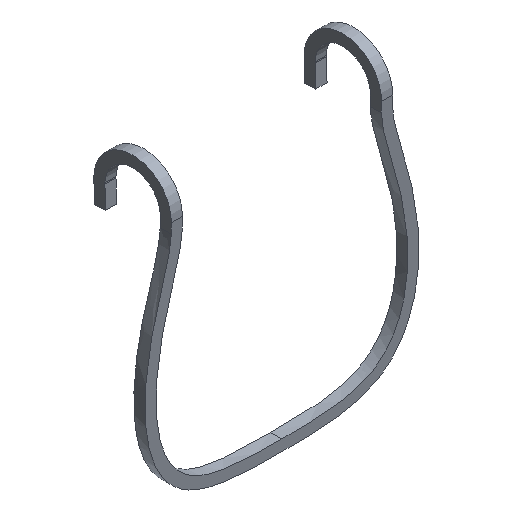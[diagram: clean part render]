
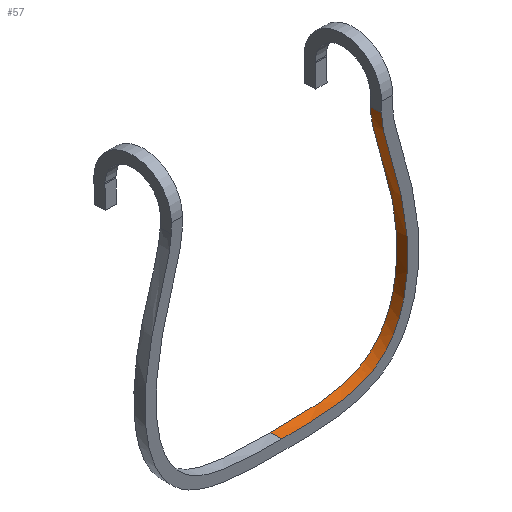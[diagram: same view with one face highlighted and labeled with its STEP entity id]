
A CAD part, isometric view. The second image highlights one B-rep face of the part: STEP entity #57.
In plain terms, the highlighted face is a extrusion surface.
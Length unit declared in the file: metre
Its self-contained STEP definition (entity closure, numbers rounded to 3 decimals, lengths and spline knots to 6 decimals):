
#57=ADVANCED_FACE('0:23',(#127),#128,.F.);
#127=FACE_OUTER_BOUND('',#207,.T.);
#128=SURFACE_OF_LINEAR_EXTRUSION('',#208,#209);
#207=EDGE_LOOP('',(#813,#814,#815,#816));
#208=B_SPLINE_CURVE_WITH_KNOTS('',3,(#817,#818,#819,#820,#821,#822),.UNSPECIFIED.,.F.,.F.,(4,1,1,4),(-0.4,0.264101,0.718762,1.1),.UNSPECIFIED.);
#209=VECTOR('',#823,1.0);
#813=ORIENTED_EDGE('',*,*,#1032,.F.);
#814=ORIENTED_EDGE('',*,*,#1033,.F.);
#815=ORIENTED_EDGE('',*,*,#1034,.T.);
#816=ORIENTED_EDGE('',*,*,#1035,.F.);
#817=CARTESIAN_POINT('',(0.132332,-0.022181,0.074671));
#818=CARTESIAN_POINT('',(0.030691,-0.022181,0.072554));
#819=CARTESIAN_POINT('',(0.076725,-0.022181,0.018317));
#820=CARTESIAN_POINT('',(0.073963,-0.022181,-0.102675));
#821=CARTESIAN_POINT('',(-0.007378,-0.022181,-0.089196));
#822=CARTESIAN_POINT('',(-0.005915,-0.022181,-0.092658));
#823=DIRECTION('',(0.,1.0,0.));
#1032=EDGE_CURVE('0:95',#1139,#1140,#1141,.T.);
#1033=EDGE_CURVE('0:98',#1142,#1139,#1143,.T.);
#1034=EDGE_CURVE('0:101',#1142,#1144,#1145,.T.);
#1035=EDGE_CURVE('0:104',#1140,#1144,#1146,.T.);
#1139=VERTEX_POINT('',#1282);
#1140=VERTEX_POINT('',#1283);
#1141=LINE('',#1284,#1285);
#1142=VERTEX_POINT('',#1286);
#1143=B_SPLINE_CURVE_WITH_KNOTS('',3,(#1287,#1288,#1289,#1290,#1291,#1292),.UNSPECIFIED.,.F.,.F.,(4,1,1,4),(0.,0.264101,0.718762,1.0),.UNSPECIFIED.);
#1144=VERTEX_POINT('',#1293);
#1145=LINE('',#1294,#1295);
#1146=B_SPLINE_CURVE_WITH_KNOTS('',3,(#1296,#1297,#1298,#1299,#1300,#1301),.UNSPECIFIED.,.F.,.F.,(4,1,1,4),(-1.0,-0.718762,-0.264101,0.),.UNSPECIFIED.);
#1282=CARTESIAN_POINT('',(0.,-0.022181,-0.091438));
#1283=CARTESIAN_POINT('',(0.,-0.015831,-0.091438));
#1284=CARTESIAN_POINT('',(0.,-0.022181,-0.091438));
#1285=VECTOR('',#1628,1.0);
#1286=CARTESIAN_POINT('',(0.05715,-0.022181,0.04191));
#1287=CARTESIAN_POINT('',(0.05715,-0.022181,0.04191));
#1288=CARTESIAN_POINT('',(0.057461,-0.022181,0.029168));
#1289=CARTESIAN_POINT('',(0.075989,-0.022181,-0.013948));
#1290=CARTESIAN_POINT('',(0.074147,-0.022181,-0.094609));
#1291=CARTESIAN_POINT('',(0.010942,-0.022181,-0.091263));
#1292=CARTESIAN_POINT('',(-0.000102,-0.022181,-0.09144));
#1293=CARTESIAN_POINT('',(0.05715,-0.015831,0.04191));
#1294=CARTESIAN_POINT('',(0.05715,-0.022181,0.04191));
#1295=VECTOR('',#1629,1.0);
#1296=CARTESIAN_POINT('',(-0.000102,-0.015831,-0.09144));
#1297=CARTESIAN_POINT('',(0.010942,-0.015831,-0.091263));
#1298=CARTESIAN_POINT('',(0.074147,-0.015831,-0.094609));
#1299=CARTESIAN_POINT('',(0.075989,-0.015831,-0.013948));
#1300=CARTESIAN_POINT('',(0.057461,-0.015831,0.029168));
#1301=CARTESIAN_POINT('',(0.05715,-0.015831,0.04191));
#1628=DIRECTION('',(0.,1.0,0.));
#1629=DIRECTION('',(0.,1.0,0.));
